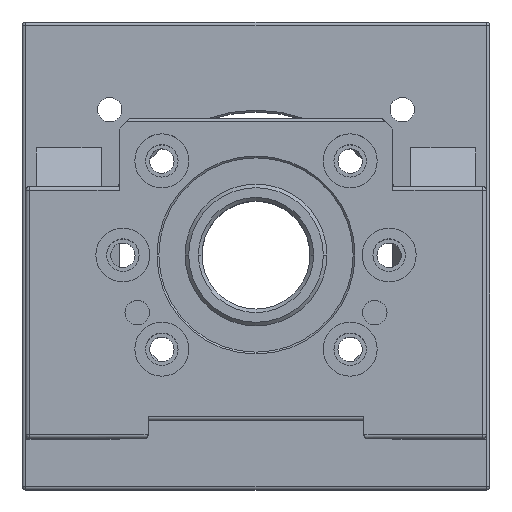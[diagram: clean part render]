
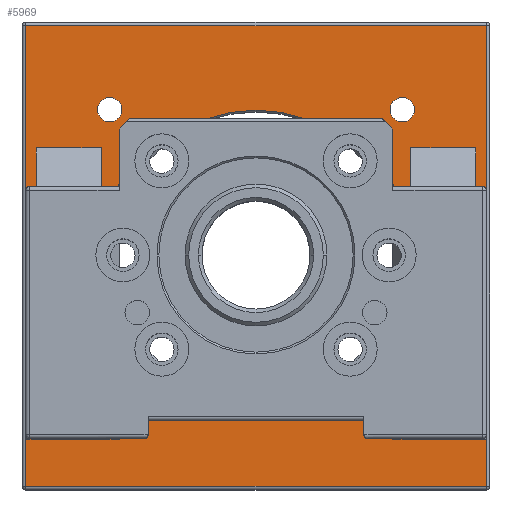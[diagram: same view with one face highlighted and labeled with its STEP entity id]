
A CAD part, top view. The second image highlights one B-rep face of the part: STEP entity #5969.
In plain terms, the highlighted planar face has unit normal (0, 0, 1).
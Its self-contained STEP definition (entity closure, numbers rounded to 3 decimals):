
#2683=DIRECTION('',(1.,0.,0.));
#2684=VECTOR('',#2683,18.);
#2685=CARTESIAN_POINT('',(43.,30.,20.));
#2686=LINE('',#2685,#2684);
#2691=DIRECTION('',(0.,1.,0.));
#2692=VECTOR('',#2691,68.193);
#2693=CARTESIAN_POINT('',(43.,-38.193,20.));
#2694=LINE('',#2693,#2692);
#2703=DIRECTION('',(0.,1.,0.));
#2704=VECTOR('',#2703,6.876);
#2705=CARTESIAN_POINT('',(43.,-50.,20.));
#2706=LINE('',#2705,#2704);
#2707=CARTESIAN_POINT('',(-40.659,-40.659,20.));
#2708=DIRECTION('',(0.,0.,1.));
#2709=DIRECTION('',(1.,0.,0.));
#2710=AXIS2_PLACEMENT_3D('',#2707,#2708,#2709);
#2712=DIRECTION('',(1.,0.,0.));
#2713=VECTOR('',#2712,17.);
#2714=CARTESIAN_POINT('',(-61.,-51.,20.));
#2715=LINE('',#2714,#2713);
#2716=CARTESIAN_POINT('',(-44.,-50.,20.));
#2717=DIRECTION('',(0.,0.,1.));
#2718=DIRECTION('',(0.,-1.,0.));
#2719=AXIS2_PLACEMENT_3D('',#2716,#2717,#2718);
#2721=CARTESIAN_POINT('',(-40.659,-40.659,20.));
#2722=DIRECTION('',(0.,0.,1.));
#2723=DIRECTION('',(-0.689,-0.725,0.));
#2724=AXIS2_PLACEMENT_3D('',#2721,#2722,#2723);
#2726=CARTESIAN_POINT('',(40.659,-40.659,20.));
#2727=DIRECTION('',(0.,0.,1.));
#2728=DIRECTION('',(0.689,0.725,0.));
#2729=AXIS2_PLACEMENT_3D('',#2726,#2727,#2728);
#2731=CARTESIAN_POINT('',(40.659,-40.659,20.));
#2732=DIRECTION('',(0.,0.,1.));
#2733=DIRECTION('',(-1.,0.,0.));
#2734=AXIS2_PLACEMENT_3D('',#2731,#2732,#2733);
#2736=CARTESIAN_POINT('',(44.,-50.,20.));
#2737=DIRECTION('',(0.,0.,1.));
#2738=DIRECTION('',(-1.,0.,0.));
#2739=AXIS2_PLACEMENT_3D('',#2736,#2737,#2738);
#2741=DIRECTION('',(1.,0.,0.));
#2742=VECTOR('',#2741,16.);
#2743=CARTESIAN_POINT('',(44.,-51.,20.));
#2744=LINE('',#2743,#2742);
#2745=CARTESIAN_POINT('',(60.,-50.,20.));
#2746=DIRECTION('',(0.,0.,1.));
#2747=DIRECTION('',(0.,-1.,0.));
#2748=AXIS2_PLACEMENT_3D('',#2745,#2746,#2747);
#2750=CARTESIAN_POINT('',(40.659,40.659,20.));
#2751=DIRECTION('',(0.,0.,1.));
#2752=DIRECTION('',(1.,0.,0.));
#2753=AXIS2_PLACEMENT_3D('',#2750,#2751,#2752);
#2755=CARTESIAN_POINT('',(40.659,40.659,20.));
#2756=DIRECTION('',(0.,0.,1.));
#2757=DIRECTION('',(-1.,0.,0.));
#2758=AXIS2_PLACEMENT_3D('',#2755,#2756,#2757);
#2760=CARTESIAN_POINT('',(-40.659,40.659,20.));
#2761=DIRECTION('',(0.,0.,1.));
#2762=DIRECTION('',(1.,0.,0.));
#2763=AXIS2_PLACEMENT_3D('',#2760,#2761,#2762);
#2765=CARTESIAN_POINT('',(-40.659,40.659,20.));
#2766=DIRECTION('',(0.,0.,1.));
#2767=DIRECTION('',(-1.,0.,0.));
#2768=AXIS2_PLACEMENT_3D('',#2765,#2766,#2767);
#2770=CARTESIAN_POINT('',(0.,0.,20.));
#2771=DIRECTION('',(0.,0.,1.));
#2772=DIRECTION('',(-1.,0.,0.));
#2773=AXIS2_PLACEMENT_3D('',#2770,#2771,#2772);
#2775=CARTESIAN_POINT('',(0.,0.,20.));
#2776=DIRECTION('',(0.,0.,1.));
#2777=DIRECTION('',(1.,0.,0.));
#2778=AXIS2_PLACEMENT_3D('',#2775,#2776,#2777);
#2780=DIRECTION('',(0.,-1.,0.));
#2781=VECTOR('',#2780,128.);
#2782=CARTESIAN_POINT('',(-64.,64.,20.));
#2783=LINE('',#2782,#2781);
#2803=DIRECTION('',(-1.,0.,0.));
#2804=VECTOR('',#2803,128.);
#2805=CARTESIAN_POINT('',(64.,64.,20.));
#2806=LINE('',#2805,#2804);
#2981=DIRECTION('',(1.,0.,0.));
#2982=VECTOR('',#2981,128.);
#2983=CARTESIAN_POINT('',(-64.,-64.,20.));
#2984=LINE('',#2983,#2982);
#3027=DIRECTION('',(0.,1.,0.));
#3028=VECTOR('',#3027,128.);
#3029=CARTESIAN_POINT('',(64.,-64.,20.));
#3030=LINE('',#3029,#3028);
#3084=DIRECTION('',(0.,-1.,0.));
#3085=VECTOR('',#3084,6.876);
#3086=CARTESIAN_POINT('',(-43.,-43.124,20.));
#3087=LINE('',#3086,#3085);
#3096=DIRECTION('',(0.,-1.,0.));
#3097=VECTOR('',#3096,68.193);
#3098=CARTESIAN_POINT('',(-43.,30.,20.));
#3099=LINE('',#3098,#3097);
#3130=DIRECTION('',(1.,0.,0.));
#3131=VECTOR('',#3130,18.);
#3132=CARTESIAN_POINT('',(-61.,30.,20.));
#3133=LINE('',#3132,#3131);
#3142=DIRECTION('',(0.,1.,0.));
#3143=VECTOR('',#3142,81.);
#3144=CARTESIAN_POINT('',(-61.,-51.,20.));
#3145=LINE('',#3144,#3143);
#3683=DIRECTION('',(0.,-1.,0.));
#3684=VECTOR('',#3683,80.);
#3685=CARTESIAN_POINT('',(61.,30.,20.));
#3686=LINE('',#3685,#3684);
#4623=CARTESIAN_POINT('',(-61.,30.,20.));
#4625=VERTEX_POINT('',#4623);
#4627=CARTESIAN_POINT('',(-43.,30.,20.));
#4628=VERTEX_POINT('',#4627);
#4633=CARTESIAN_POINT('',(-61.,-51.,20.));
#4634=VERTEX_POINT('',#4633);
#4678=CARTESIAN_POINT('',(-44.,-51.,20.));
#4679=VERTEX_POINT('',#4678);
#4902=CARTESIAN_POINT('',(43.,30.,20.));
#4904=VERTEX_POINT('',#4902);
#4906=CARTESIAN_POINT('',(61.,30.,20.));
#4907=VERTEX_POINT('',#4906);
#4910=CARTESIAN_POINT('',(43.,-38.193,20.));
#4911=VERTEX_POINT('',#4910);
#4916=CARTESIAN_POINT('',(43.,-50.,20.));
#4917=VERTEX_POINT('',#4916);
#4918=CARTESIAN_POINT('',(43.,-43.124,20.));
#4919=VERTEX_POINT('',#4918);
#4921=CARTESIAN_POINT('',(-64.,64.,20.));
#4922=CARTESIAN_POINT('',(-64.,-64.,20.));
#4923=VERTEX_POINT('',#4921);
#4924=VERTEX_POINT('',#4922);
#4925=CARTESIAN_POINT('',(64.,64.,20.));
#4926=VERTEX_POINT('',#4925);
#4927=CARTESIAN_POINT('',(64.,-64.,20.));
#4928=VERTEX_POINT('',#4927);
#4929=CARTESIAN_POINT('',(-37.259,-40.659,20.));
#4930=CARTESIAN_POINT('',(-43.,-38.193,20.));
#4931=VERTEX_POINT('',#4929);
#4932=VERTEX_POINT('',#4930);
#4933=CARTESIAN_POINT('',(-43.,-50.,20.));
#4934=VERTEX_POINT('',#4933);
#4935=CARTESIAN_POINT('',(-43.,-43.124,20.));
#4936=VERTEX_POINT('',#4935);
#4937=CARTESIAN_POINT('',(37.259,-40.659,20.));
#4938=VERTEX_POINT('',#4937);
#4939=CARTESIAN_POINT('',(44.,-51.,20.));
#4940=VERTEX_POINT('',#4939);
#4941=CARTESIAN_POINT('',(60.,-51.,20.));
#4942=VERTEX_POINT('',#4941);
#4943=CARTESIAN_POINT('',(61.,-50.,20.));
#4944=VERTEX_POINT('',#4943);
#4945=CARTESIAN_POINT('',(44.059,40.659,20.));
#4946=CARTESIAN_POINT('',(37.259,40.659,20.));
#4947=VERTEX_POINT('',#4945);
#4948=VERTEX_POINT('',#4946);
#4949=CARTESIAN_POINT('',(-37.259,40.659,20.));
#4950=CARTESIAN_POINT('',(-44.059,40.659,20.));
#4951=VERTEX_POINT('',#4949);
#4952=VERTEX_POINT('',#4950);
#4953=CARTESIAN_POINT('',(-40.5,0.,20.));
#4954=CARTESIAN_POINT('',(40.5,0.,20.));
#4955=VERTEX_POINT('',#4953);
#4956=VERTEX_POINT('',#4954);
#5902=CARTESIAN_POINT('',(0.,0.,20.));
#5903=DIRECTION('',(0.,0.,1.));
#5904=DIRECTION('',(1.,0.,0.));
#5905=AXIS2_PLACEMENT_3D('',#5902,#5903,#5904);
#5906=PLANE('',#5905);
#5908=ORIENTED_EDGE('',*,*,#5907,.F.);
#5910=ORIENTED_EDGE('',*,*,#5909,.F.);
#5912=ORIENTED_EDGE('',*,*,#5911,.F.);
#5914=ORIENTED_EDGE('',*,*,#5913,.F.);
#5915=EDGE_LOOP('',(#5908,#5910,#5912,#5914));
#5916=FACE_OUTER_BOUND('',#5915,.F.);
#5918=ORIENTED_EDGE('',*,*,#5917,.T.);
#5920=ORIENTED_EDGE('',*,*,#5919,.F.);
#5922=ORIENTED_EDGE('',*,*,#5921,.F.);
#5924=ORIENTED_EDGE('',*,*,#5923,.F.);
#5925=ORIENTED_EDGE('',*,*,#5406,.T.);
#5927=ORIENTED_EDGE('',*,*,#5926,.T.);
#5929=ORIENTED_EDGE('',*,*,#5928,.F.);
#5931=ORIENTED_EDGE('',*,*,#5930,.T.);
#5932=EDGE_LOOP('',(#5918,#5920,#5922,#5924,#5925,#5927,#5929,#5931));
#5933=FACE_BOUND('',#5932,.F.);
#5935=ORIENTED_EDGE('',*,*,#5934,.T.);
#5937=ORIENTED_EDGE('',*,*,#5936,.T.);
#5938=ORIENTED_EDGE('',*,*,#5893,.F.);
#5940=ORIENTED_EDGE('',*,*,#5939,.T.);
#5942=ORIENTED_EDGE('',*,*,#5941,.T.);
#5944=ORIENTED_EDGE('',*,*,#5943,.T.);
#5946=ORIENTED_EDGE('',*,*,#5945,.F.);
#5947=ORIENTED_EDGE('',*,*,#5867,.F.);
#5948=ORIENTED_EDGE('',*,*,#5884,.F.);
#5949=EDGE_LOOP('',(#5935,#5937,#5938,#5940,#5942,#5944,#5946,#5947,#5948));
#5950=FACE_BOUND('',#5949,.F.);
#5952=ORIENTED_EDGE('',*,*,#5951,.T.);
#5954=ORIENTED_EDGE('',*,*,#5953,.T.);
#5955=EDGE_LOOP('',(#5952,#5954));
#5956=FACE_BOUND('',#5955,.F.);
#5958=ORIENTED_EDGE('',*,*,#5957,.T.);
#5960=ORIENTED_EDGE('',*,*,#5959,.T.);
#5961=EDGE_LOOP('',(#5958,#5960));
#5962=FACE_BOUND('',#5961,.F.);
#5964=ORIENTED_EDGE('',*,*,#5963,.T.);
#5966=ORIENTED_EDGE('',*,*,#5965,.T.);
#5967=EDGE_LOOP('',(#5964,#5966));
#5968=FACE_BOUND('',#5967,.F.);
#2711=CIRCLE('',#2710,3.4);
#2720=CIRCLE('',#2719,1.);
#2725=CIRCLE('',#2724,3.4);
#2730=CIRCLE('',#2729,3.4);
#2735=CIRCLE('',#2734,3.4);
#2740=CIRCLE('',#2739,1.);
#2749=CIRCLE('',#2748,1.);
#2754=CIRCLE('',#2753,3.4);
#2759=CIRCLE('',#2758,3.4);
#2764=CIRCLE('',#2763,3.4);
#2769=CIRCLE('',#2768,3.4);
#2774=CIRCLE('',#2773,40.5);
#2779=CIRCLE('',#2778,40.5);
#5406=EDGE_CURVE('',#4634,#4679,#2715,.T.);
#5867=EDGE_CURVE('',#4904,#4907,#2686,.T.);
#5884=EDGE_CURVE('',#4911,#4904,#2694,.T.);
#5893=EDGE_CURVE('',#4917,#4919,#2706,.T.);
#5907=EDGE_CURVE('',#4923,#4924,#2783,.T.);
#5909=EDGE_CURVE('',#4926,#4923,#2806,.T.);
#5911=EDGE_CURVE('',#4928,#4926,#3030,.T.);
#5913=EDGE_CURVE('',#4924,#4928,#2984,.T.);
#5917=EDGE_CURVE('',#4931,#4932,#2711,.T.);
#5919=EDGE_CURVE('',#4628,#4932,#3099,.T.);
#5921=EDGE_CURVE('',#4625,#4628,#3133,.T.);
#5923=EDGE_CURVE('',#4634,#4625,#3145,.T.);
#5926=EDGE_CURVE('',#4679,#4934,#2720,.T.);
#5928=EDGE_CURVE('',#4936,#4934,#3087,.T.);
#5930=EDGE_CURVE('',#4936,#4931,#2725,.T.);
#5934=EDGE_CURVE('',#4911,#4938,#2730,.T.);
#5936=EDGE_CURVE('',#4938,#4919,#2735,.T.);
#5939=EDGE_CURVE('',#4917,#4940,#2740,.T.);
#5941=EDGE_CURVE('',#4940,#4942,#2744,.T.);
#5943=EDGE_CURVE('',#4942,#4944,#2749,.T.);
#5945=EDGE_CURVE('',#4907,#4944,#3686,.T.);
#5951=EDGE_CURVE('',#4947,#4948,#2754,.T.);
#5953=EDGE_CURVE('',#4948,#4947,#2759,.T.);
#5957=EDGE_CURVE('',#4951,#4952,#2764,.T.);
#5959=EDGE_CURVE('',#4952,#4951,#2769,.T.);
#5963=EDGE_CURVE('',#4955,#4956,#2774,.T.);
#5965=EDGE_CURVE('',#4956,#4955,#2779,.T.);
#5969=ADVANCED_FACE('',(#5916,#5933,#5950,#5956,#5962,#5968),#5906,.T.);
